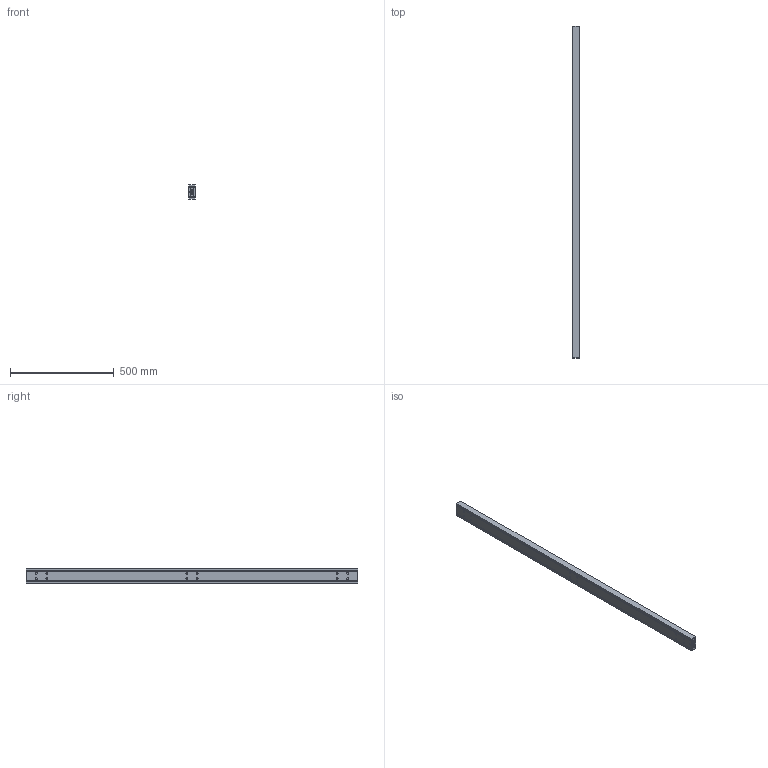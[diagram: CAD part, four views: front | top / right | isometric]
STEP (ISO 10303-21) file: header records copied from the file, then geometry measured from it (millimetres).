
FILE_DESCRIPTION(/* description */ (''),/* implementation_level */ '2;1');
FILE_NAME(/* name */ 'D:\Zeichnungen Schienen Komplett\MX-DTP70\MX-DTP70.160\MX-DTP70.160_eingefahren.step',/* time_stamp */ '2021-12-15T14:33:22+01:00',/* author */ ('zmile'),/* organization */ (''),/* preprocessor_version */ 'ST-DEVELOPER v16.13',/* originating_system */ 'AutoCAD Mechanical',/* authorisation */ '');
FILE_SCHEMA (('AUTOMOTIVE_DESIGN { 1 0 10303 214 3 1 1 }'));
Length unit declared in the file: millimetre
Products named in the file (1): Product
Bounding box: 32 x 1600 x 70 mm (x, y, z)
Volume: 2726517.7 mm3; surface area: 897588.2 mm2
Topology: 61 solids, 63 shells, 190 faces, 632 edges, 456 vertices
Faces by surface type: plane 82, sphere 56, cylinder 38, bspline 8, torus 6
Full cylindrical faces by diameter (mm): 8 x24, 13 x2
Entity records: 12955 total; most frequent: CARTESIAN_POINT 7587, DIRECTION 1090, ORIENTED_EDGE 828, EDGE_CURVE 486, VERTEX_POINT 454, AXIS2_PLACEMENT_3D 439, EDGE_LOOP 386, CIRCLE 252
